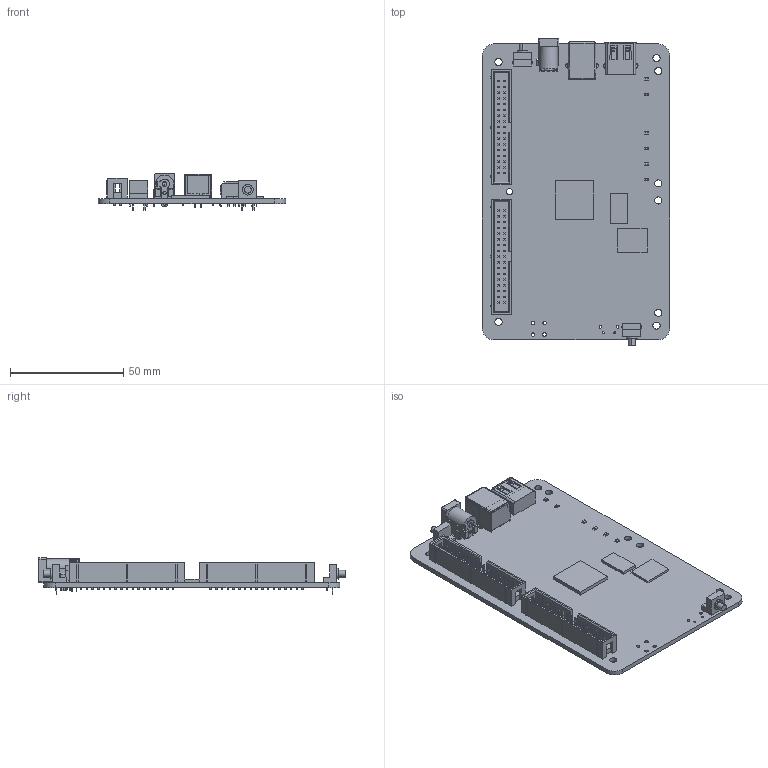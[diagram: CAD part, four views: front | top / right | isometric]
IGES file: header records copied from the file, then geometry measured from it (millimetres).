
Start section:  PTC IGES file: cu_myrio-1950.igs
Global section: file name: cu_myrio-1950.igs; native system: Pro/ENGINEER by Parametric Technology Corporation; preprocessor: 2011490; author: jbuhisan; organization: Unknown; date: 20130805.094954; units: inch
Bounding box: 82.7 x 135.67 x 16 mm (x, y, z)
Surface area: 34620.2 mm2 (no closed solid volume)
Topology: 0 solids, 0 shells, 1904 faces, 9952 edges, 9950 vertices
Faces by surface type: bspline 1720, revolution 184
